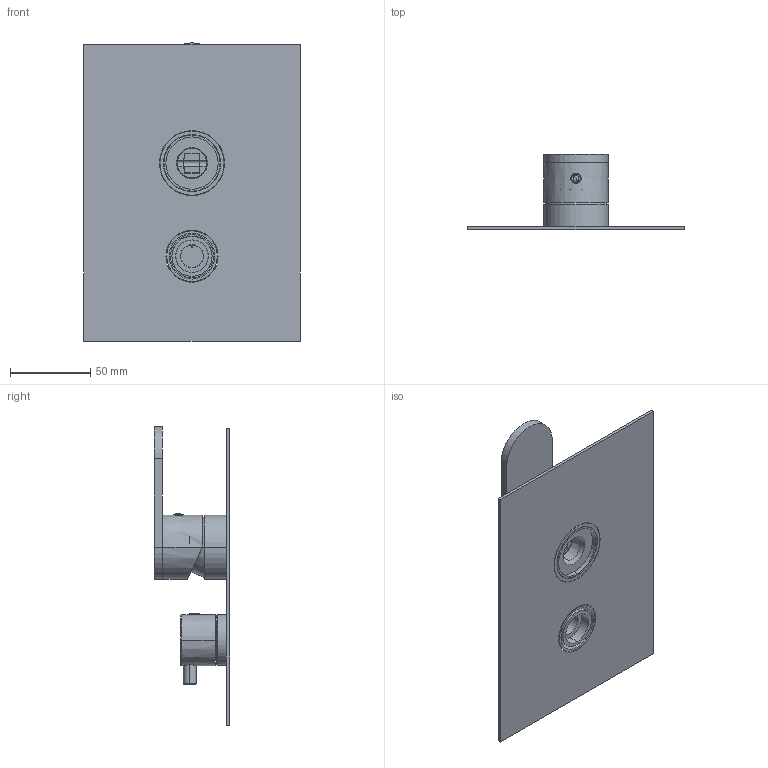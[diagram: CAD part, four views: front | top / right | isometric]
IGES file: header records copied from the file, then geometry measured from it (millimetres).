
Start section:  PTC IGES file: 79541.igs
Global section: file name: 79541.igs; native system: Creo Parametric by PTC Inc.; preprocessor: 2025443; author: carloff; organization: Unknown; date: 20261005.165315; units: millimetre
Bounding box: 135 x 47 x 186 mm (x, y, z)
Surface area: 85824.3 mm2 (no closed solid volume)
Topology: 0 solids, 0 shells, 574 faces, 3176 edges, 3166 vertices
Faces by surface type: revolution 334, bspline 240
